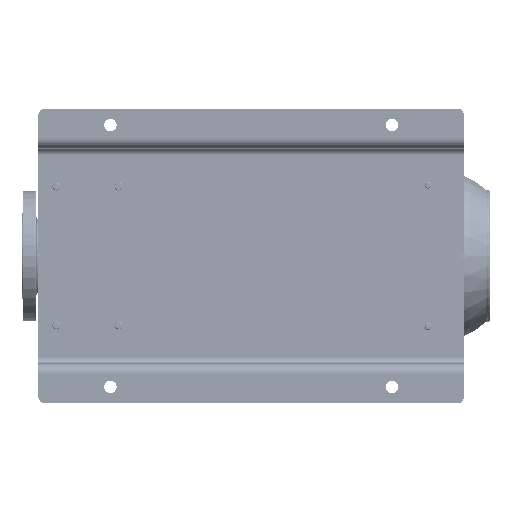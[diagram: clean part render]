
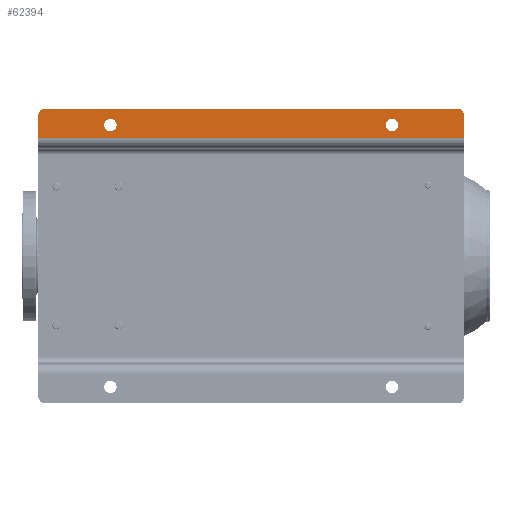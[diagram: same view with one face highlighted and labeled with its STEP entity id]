
A CAD part, front view. The second image highlights one B-rep face of the part: STEP entity #62394.
In plain terms, the highlighted planar face has unit normal (0, -1, 0).
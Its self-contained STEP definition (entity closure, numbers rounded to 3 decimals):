
#594 = CARTESIAN_POINT ( 'NONE',  ( 415.5, 0., -110. ) ) ;
#6111 = CARTESIAN_POINT ( 'NONE',  ( 450., 0., -650. ) ) ;
#6546 = AXIS2_PLACEMENT_3D ( 'NONE', #53677, #94469, #146345 ) ;
#6734 = AXIS2_PLACEMENT_3D ( 'NONE', #93898, #40329, #53941 ) ;
#7040 = DIRECTION ( 'NONE',  ( 0., 0., -1. ) ) ;
#13354 = VERTEX_POINT ( 'NONE', #594 ) ;
#15239 = EDGE_LOOP ( 'NONE', ( #32451, #151596, #51786, #54571, #105613, #73024 ) ) ;
#16807 = CARTESIAN_POINT ( 'NONE',  ( 425., 0., -540. ) ) ;
#19811 = LINE ( 'NONE', #123627, #40554 ) ;
#20180 = CIRCLE ( 'NONE', #6546, 10. ) ;
#20373 = CIRCLE ( 'NONE', #6734, 9.5 ) ;
#22923 = AXIS2_PLACEMENT_3D ( 'NONE', #16807, #54299, #118972 ) ;
#23622 = DIRECTION ( 'NONE',  ( 0., -1., 0. ) ) ;
#25362 = VERTEX_POINT ( 'NONE', #67854 ) ;
#25951 = DIRECTION ( 'NONE',  ( 0., -1., 0. ) ) ;
#32451 = ORIENTED_EDGE ( 'NONE', *, *, #159228, .F. ) ;
#36192 = EDGE_CURVE ( 'NONE', #73952, #13354, #129468, .T. ) ;
#38922 = CARTESIAN_POINT ( 'NONE',  ( 440., 0., -640. ) ) ;
#40329 = DIRECTION ( 'NONE',  ( 0., 1., 0. ) ) ;
#40554 = VECTOR ( 'NONE', #7040, 1000. ) ;
#41148 = VERTEX_POINT ( 'NONE', #139635 ) ;
#41286 = CARTESIAN_POINT ( 'NONE',  ( 415.5, 0., -540. ) ) ;
#42800 = LINE ( 'NONE', #6111, #68232 ) ;
#43750 = VERTEX_POINT ( 'NONE', #139308 ) ;
#47421 = CARTESIAN_POINT ( 'NONE',  ( 434.5, 0., -110. ) ) ;
#51786 = ORIENTED_EDGE ( 'NONE', *, *, #111306, .T. ) ;
#53677 = CARTESIAN_POINT ( 'NONE',  ( 440., 0., -10. ) ) ;
#53941 = DIRECTION ( 'NONE',  ( 0., 0., -1. ) ) ;
#54299 = DIRECTION ( 'NONE',  ( 0., 1., 0. ) ) ;
#54571 = ORIENTED_EDGE ( 'NONE', *, *, #86490, .T. ) ;
#56077 = AXIS2_PLACEMENT_3D ( 'NONE', #97552, #149431, #91326 ) ;
#58270 = CARTESIAN_POINT ( 'NONE',  ( 450., 0., -640. ) ) ;
#61973 = CARTESIAN_POINT ( 'NONE',  ( 425., 0., -540. ) ) ;
#62394 = ADVANCED_FACE ( 'NONE', ( #103359, #164684, #166359 ), #127227, .T. ) ;
#63630 = VERTEX_POINT ( 'NONE', #150438 ) ;
#67854 = CARTESIAN_POINT ( 'NONE',  ( 434.5, 0., -540. ) ) ;
#68232 = VECTOR ( 'NONE', #84417, 1000. ) ;
#69412 = ORIENTED_EDGE ( 'NONE', *, *, #104605, .T. ) ;
#69938 = CIRCLE ( 'NONE', #99945, 10. ) ;
#73024 = ORIENTED_EDGE ( 'NONE', *, *, #129252, .T. ) ;
#73952 = VERTEX_POINT ( 'NONE', #47421 ) ;
#79335 = EDGE_CURVE ( 'NONE', #111499, #25362, #137211, .T. ) ;
#84417 = DIRECTION ( 'NONE',  ( 0., 0., 1. ) ) ;
#85375 = CARTESIAN_POINT ( 'NONE',  ( 389., 0., 0. ) ) ;
#86490 = EDGE_CURVE ( 'NONE', #63630, #154726, #69938, .T. ) ;
#91326 = DIRECTION ( 'NONE',  ( 0., 0., -1. ) ) ;
#91980 = ORIENTED_EDGE ( 'NONE', *, *, #149137, .T. ) ;
#93898 = CARTESIAN_POINT ( 'NONE',  ( 425., 0., -110. ) ) ;
#94469 = DIRECTION ( 'NONE',  ( 0., -1., 0. ) ) ;
#97552 = CARTESIAN_POINT ( 'NONE',  ( 425., 0., -110. ) ) ;
#97964 = VECTOR ( 'NONE', #148393, 1000. ) ;
#99420 = DIRECTION ( 'NONE',  ( 0., 1., 0. ) ) ;
#99945 = AXIS2_PLACEMENT_3D ( 'NONE', #38922, #23622, #116348 ) ;
#100112 = DIRECTION ( 'NONE',  ( 1., 0., 0. ) ) ;
#100923 = CARTESIAN_POINT ( 'NONE',  ( 389., 0., -650. ) ) ;
#101096 = VERTEX_POINT ( 'NONE', #157794 ) ;
#102535 = DIRECTION ( 'NONE',  ( 0., 0., -1. ) ) ;
#103359 = FACE_BOUND ( 'NONE', #166240, .T. ) ;
#104368 = ORIENTED_EDGE ( 'NONE', *, *, #79335, .T. ) ;
#104605 = EDGE_CURVE ( 'NONE', #25362, #111499, #164192, .T. ) ;
#105613 = ORIENTED_EDGE ( 'NONE', *, *, #121167, .T. ) ;
#111306 = EDGE_CURVE ( 'NONE', #41148, #63630, #165607, .T. ) ;
#111499 = VERTEX_POINT ( 'NONE', #41286 ) ;
#114657 = DIRECTION ( 'NONE',  ( 0., 0., -1. ) ) ;
#116348 = DIRECTION ( 'NONE',  ( 0., 0., -1. ) ) ;
#118972 = DIRECTION ( 'NONE',  ( 0., 0., -1. ) ) ;
#121167 = EDGE_CURVE ( 'NONE', #154726, #150000, #42800, .T. ) ;
#123627 = CARTESIAN_POINT ( 'NONE',  ( 405., 0., -650. ) ) ;
#127227 = PLANE ( 'NONE',  #156996 ) ;
#129252 = EDGE_CURVE ( 'NONE', #150000, #43750, #20180, .T. ) ;
#129468 = CIRCLE ( 'NONE', #56077, 9.5 ) ;
#129966 = VECTOR ( 'NONE', #100112, 1000. ) ;
#137211 = CIRCLE ( 'NONE', #164462, 9.5 ) ;
#139163 = CARTESIAN_POINT ( 'NONE',  ( 450., 0., -10. ) ) ;
#139308 = CARTESIAN_POINT ( 'NONE',  ( 440., 0., 0. ) ) ;
#139635 = CARTESIAN_POINT ( 'NONE',  ( 405., 0., -650. ) ) ;
#146345 = DIRECTION ( 'NONE',  ( 0., 0., -1. ) ) ;
#148393 = DIRECTION ( 'NONE',  ( 1., 0., 0. ) ) ;
#149137 = EDGE_CURVE ( 'NONE', #13354, #73952, #20373, .T. ) ;
#149431 = DIRECTION ( 'NONE',  ( 0., 1., 0. ) ) ;
#150000 = VERTEX_POINT ( 'NONE', #139163 ) ;
#150438 = CARTESIAN_POINT ( 'NONE',  ( 440., 0., -650. ) ) ;
#151596 = ORIENTED_EDGE ( 'NONE', *, *, #156945, .T. ) ;
#154333 = EDGE_LOOP ( 'NONE', ( #104368, #69412 ) ) ;
#154726 = VERTEX_POINT ( 'NONE', #58270 ) ;
#155276 = CARTESIAN_POINT ( 'NONE',  ( 389., 0., -650. ) ) ;
#156945 = EDGE_CURVE ( 'NONE', #101096, #41148, #19811, .T. ) ;
#156996 = AXIS2_PLACEMENT_3D ( 'NONE', #155276, #25951, #102535 ) ;
#157794 = CARTESIAN_POINT ( 'NONE',  ( 405., 0., 0. ) ) ;
#159228 = EDGE_CURVE ( 'NONE', #101096, #43750, #160329, .T. ) ;
#160329 = LINE ( 'NONE', #85375, #97964 ) ;
#164192 = CIRCLE ( 'NONE', #22923, 9.5 ) ;
#164462 = AXIS2_PLACEMENT_3D ( 'NONE', #61973, #99420, #114657 ) ;
#164684 = FACE_BOUND ( 'NONE', #154333, .T. ) ;
#165607 = LINE ( 'NONE', #100923, #129966 ) ;
#166240 = EDGE_LOOP ( 'NONE', ( #91980, #167620 ) ) ;
#166359 = FACE_OUTER_BOUND ( 'NONE', #15239, .T. ) ;
#167620 = ORIENTED_EDGE ( 'NONE', *, *, #36192, .T. ) ;
